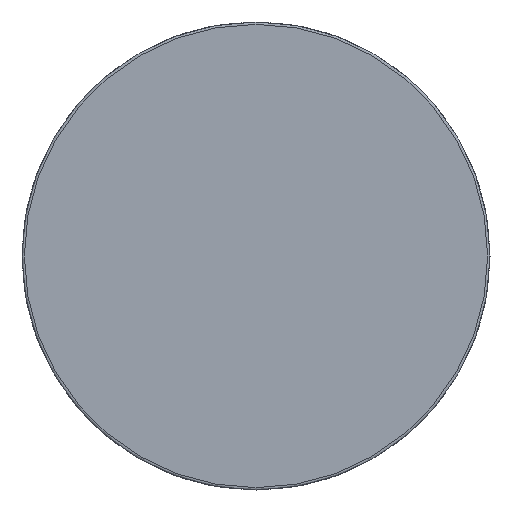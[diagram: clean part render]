
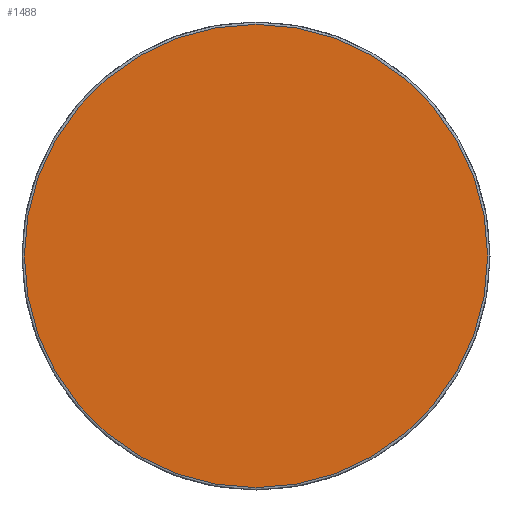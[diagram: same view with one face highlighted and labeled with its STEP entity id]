
A CAD part, left-side view. The second image highlights one B-rep face of the part: STEP entity #1488.
In plain terms, the highlighted planar face has unit normal (-1, 0, 0).
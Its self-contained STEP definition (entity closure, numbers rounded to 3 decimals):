
#664=CARTESIAN_POINT('',(-523.004,-488.109,-49.362));
#665=VERTEX_POINT('',#664);
#692=CARTESIAN_POINT('',(-523.004,-488.109,49.638));
#693=VERTEX_POINT('',#692);
#694=CARTESIAN_POINT('',(-523.004,-488.109,0.138));
#695=DIRECTION('',(-1.0,0.0,0.0));
#696=DIRECTION('',(0.0,0.0,-1.0));
#697=AXIS2_PLACEMENT_3D('',#694,#695,#696);
#698=CIRCLE('',#697,49.5);
#699=EDGE_CURVE('',#693,#665,#698,.T.);
#701=CARTESIAN_POINT('',(-523.004,-488.109,0.138));
#702=DIRECTION('',(-1.0,0.0,0.0));
#703=DIRECTION('',(0.0,0.0,-1.0));
#704=AXIS2_PLACEMENT_3D('',#701,#702,#703);
#705=CIRCLE('',#704,49.5);
#706=EDGE_CURVE('',#665,#693,#705,.T.);
#1479=CARTESIAN_POINT('',(-523.004,-438.608,-49.363));
#1480=DIRECTION('',(-1.0,0.0,0.0));
#1481=DIRECTION('',(0.0,-1.0,0.0));
#1482=AXIS2_PLACEMENT_3D('',#1479,#1480,#1481);
#1483=PLANE('',#1482);
#1484=ORIENTED_EDGE('',*,*,#706,.T.);
#1485=ORIENTED_EDGE('',*,*,#699,.T.);
#1486=EDGE_LOOP('',(#1484,#1485));
#1487=FACE_OUTER_BOUND('',#1486,.T.);
#1488=ADVANCED_FACE('',(#1487),#1483,.T.);
